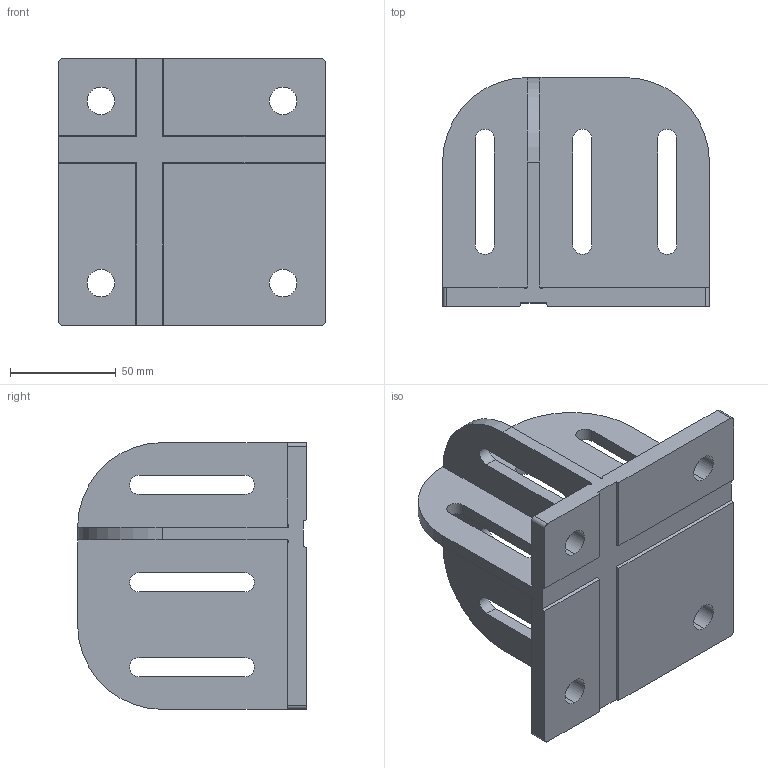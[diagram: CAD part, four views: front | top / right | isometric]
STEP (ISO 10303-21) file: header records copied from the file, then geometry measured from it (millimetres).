
FILE_DESCRIPTION (( 'STEP AP203' ), '1' );
FILE_NAME ('5.11.4080.STEP', '2014-05-20T06:14:14', ( 'USER' ), ( 'Microsoft' ), 'SwSTEP 2.0', 'SolidWorks 2012', '' );
FILE_SCHEMA (( 'CONFIG_CONTROL_DESIGN' ));
Length unit declared in the file: millimetre
Products named in the file (1): 5.11.4080
Bounding box: 126 x 108 x 126 mm (x, y, z)
Volume: 252525.1 mm3; surface area: 82695.4 mm2
Topology: 1 solids, 1 shells, 86 faces, 240 edges, 156 vertices
Faces by surface type: cylinder 44, plane 42
Entity records: 2877 total; most frequent: CARTESIAN_POINT 507, ORIENTED_EDGE 480, DIRECTION 478, EDGE_CURVE 240, VECTOR 160, LINE 160, AXIS2_PLACEMENT_3D 159, VERTEX_POINT 156
